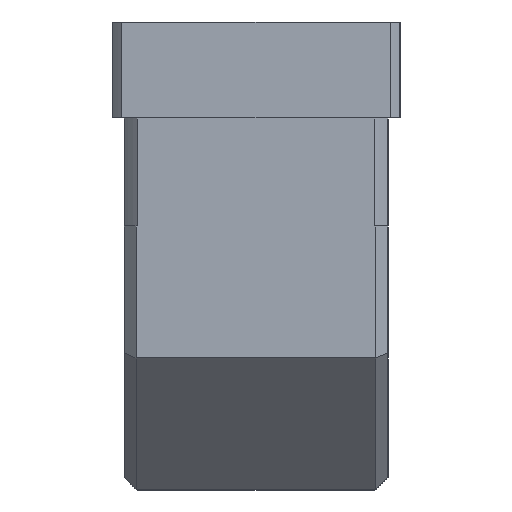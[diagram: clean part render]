
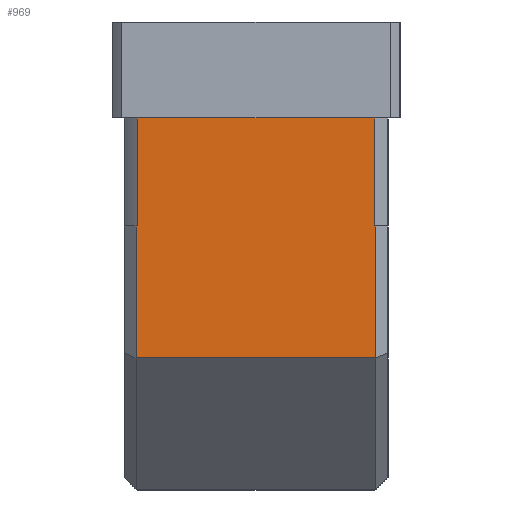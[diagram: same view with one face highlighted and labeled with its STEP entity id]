
A CAD part, left-side view. The second image highlights one B-rep face of the part: STEP entity #969.
In plain terms, the highlighted planar face has unit normal (-1, 0, 0).
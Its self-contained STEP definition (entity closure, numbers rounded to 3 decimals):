
#136 = ORIENTED_EDGE ( 'NONE', *, *, #2727, .T. ) ;
#173 = LINE ( 'NONE', #2926, #2834 ) ;
#208 = LINE ( 'NONE', #4528, #3815 ) ;
#224 = FACE_OUTER_BOUND ( 'NONE', #703, .T. ) ;
#284 = ORIENTED_EDGE ( 'NONE', *, *, #630, .T. ) ;
#325 = ORIENTED_EDGE ( 'NONE', *, *, #391, .F. ) ;
#378 = VECTOR ( 'NONE', #3671, 1000. ) ;
#391 = EDGE_CURVE ( 'NONE', #1408, #2003, #2429, .T. ) ;
#430 = VECTOR ( 'NONE', #4394, 1000. ) ;
#516 = ORIENTED_EDGE ( 'NONE', *, *, #2362, .T. ) ;
#630 = EDGE_CURVE ( 'NONE', #2244, #3843, #173, .T. ) ;
#690 = CARTESIAN_POINT ( 'NONE',  ( -55., -49.508, 155. ) ) ;
#703 = EDGE_LOOP ( 'NONE', ( #2270, #4301, #516, #1885, #325, #942, #284, #136 ) ) ;
#872 = CARTESIAN_POINT ( 'NONE',  ( -55., -55., 110. ) ) ;
#881 = CARTESIAN_POINT ( 'NONE',  ( -55., -49.508, 110. ) ) ;
#942 = ORIENTED_EDGE ( 'NONE', *, *, #2479, .T. ) ;
#969 = ADVANCED_FACE ( 'NONE', ( #224 ), #4522, .T. ) ;
#976 = VECTOR ( 'NONE', #4279, 1000. ) ;
#983 = EDGE_CURVE ( 'NONE', #1669, #2003, #2941, .T. ) ;
#1046 = CARTESIAN_POINT ( 'NONE',  ( -55., 49.508, 110. ) ) ;
#1298 = CARTESIAN_POINT ( 'NONE',  ( -55., -49.508, 110. ) ) ;
#1391 = EDGE_CURVE ( 'NONE', #3631, #2743, #3724, .T. ) ;
#1408 = VERTEX_POINT ( 'NONE', #1298 ) ;
#1502 = CARTESIAN_POINT ( 'NONE',  ( -55., -50., 110. ) ) ;
#1669 = VERTEX_POINT ( 'NONE', #3384 ) ;
#1679 = DIRECTION ( 'NONE',  ( 0., 0., 1. ) ) ;
#1684 = AXIS2_PLACEMENT_3D ( 'NONE', #3807, #1718, #2063 ) ;
#1718 = DIRECTION ( 'NONE',  ( -1., 0., 0. ) ) ;
#1746 = LINE ( 'NONE', #881, #430 ) ;
#1885 = ORIENTED_EDGE ( 'NONE', *, *, #983, .T. ) ;
#2003 = VERTEX_POINT ( 'NONE', #1502 ) ;
#2063 = DIRECTION ( 'NONE',  ( 0., 0., 1. ) ) ;
#2200 = VECTOR ( 'NONE', #1679, 1000. ) ;
#2244 = VERTEX_POINT ( 'NONE', #690 ) ;
#2270 = ORIENTED_EDGE ( 'NONE', *, *, #2939, .F. ) ;
#2362 = EDGE_CURVE ( 'NONE', #2743, #1669, #3052, .T. ) ;
#2429 = LINE ( 'NONE', #872, #4345 ) ;
#2479 = EDGE_CURVE ( 'NONE', #1408, #2244, #1746, .T. ) ;
#2482 = CARTESIAN_POINT ( 'NONE',  ( -55., 50., 55. ) ) ;
#2620 = CARTESIAN_POINT ( 'NONE',  ( -55., 49.508, 155. ) ) ;
#2727 = EDGE_CURVE ( 'NONE', #3843, #4006, #208, .T. ) ;
#2743 = VERTEX_POINT ( 'NONE', #2482 ) ;
#2834 = VECTOR ( 'NONE', #3285, 1000. ) ;
#2926 = CARTESIAN_POINT ( 'NONE',  ( -55., -55., 155. ) ) ;
#2939 = EDGE_CURVE ( 'NONE', #3631, #4006, #4536, .T. ) ;
#2941 = LINE ( 'NONE', #3114, #2200 ) ;
#3052 = LINE ( 'NONE', #3950, #976 ) ;
#3114 = CARTESIAN_POINT ( 'NONE',  ( -55., -50., 110. ) ) ;
#3285 = DIRECTION ( 'NONE',  ( 0., 1., 0. ) ) ;
#3319 = CARTESIAN_POINT ( 'NONE',  ( -55., -55., 110. ) ) ;
#3377 = CARTESIAN_POINT ( 'NONE',  ( -55., 50., 110. ) ) ;
#3384 = CARTESIAN_POINT ( 'NONE',  ( -55., -50., 55. ) ) ;
#3454 = CARTESIAN_POINT ( 'NONE',  ( -55., 50., 110. ) ) ;
#3631 = VERTEX_POINT ( 'NONE', #3454 ) ;
#3671 = DIRECTION ( 'NONE',  ( 0., -1., 0. ) ) ;
#3724 = LINE ( 'NONE', #3377, #4539 ) ;
#3807 = CARTESIAN_POINT ( 'NONE',  ( -55., -55., 110. ) ) ;
#3815 = VECTOR ( 'NONE', #3887, 1000. ) ;
#3843 = VERTEX_POINT ( 'NONE', #2620 ) ;
#3887 = DIRECTION ( 'NONE',  ( 0., 0., -1. ) ) ;
#3950 = CARTESIAN_POINT ( 'NONE',  ( -55., -55., 55. ) ) ;
#4006 = VERTEX_POINT ( 'NONE', #1046 ) ;
#4080 = DIRECTION ( 'NONE',  ( 0., -1., 0. ) ) ;
#4115 = DIRECTION ( 'NONE',  ( 0., 0., -1. ) ) ;
#4279 = DIRECTION ( 'NONE',  ( 0., -1., 0. ) ) ;
#4301 = ORIENTED_EDGE ( 'NONE', *, *, #1391, .T. ) ;
#4345 = VECTOR ( 'NONE', #4080, 1000. ) ;
#4394 = DIRECTION ( 'NONE',  ( 0., 0., 1. ) ) ;
#4522 = PLANE ( 'NONE',  #1684 ) ;
#4528 = CARTESIAN_POINT ( 'NONE',  ( -55., 49.508, 110. ) ) ;
#4536 = LINE ( 'NONE', #3319, #378 ) ;
#4539 = VECTOR ( 'NONE', #4115, 1000. ) ;
